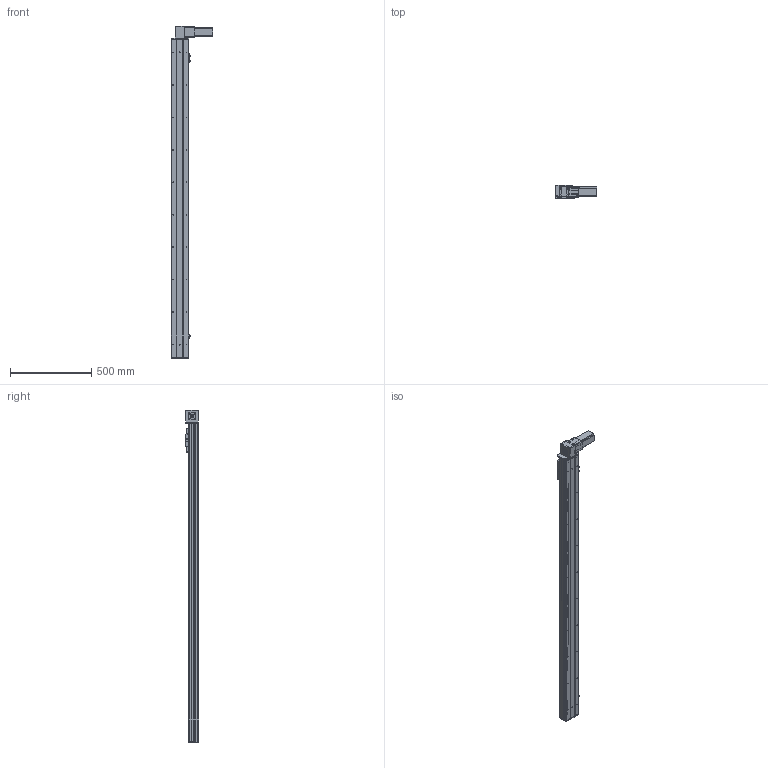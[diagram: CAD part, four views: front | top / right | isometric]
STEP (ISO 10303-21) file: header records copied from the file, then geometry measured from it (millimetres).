
FILE_DESCRIPTION (( 'STEP AP203' ), '1' );
FILE_NAME ('Y10CB-D90-S1700-BD-P400W.STEP', '2020-02-17T02:47:20', ( '微软用户' ), ( '微软中国' ), 'SwSTEP 2.0', 'SolidWorks 2017', '' );
FILE_SCHEMA (( 'CONFIG_CONTROL_DESIGN' ));
Length unit declared in the file: millimetre
Products named in the file (16): Y135C-陔俋离換覜結え-; san松下电机400不带刹车----; Y100-135俋离換覜ん--; 0B-源倛裔啣; Y10B--々湍喘謫眊--666; 0B-埴倛裔啣; 0B-薊粣ん眊; 10CB-詩湍-; Y10CB-D90-S1700-BD-P400W; Y10CB- 掛极耜裔啣-毀---; Y10C---詩湍揤啣; 0CB-雄赽釱---; 10CB9-掛极; 0Cb-俋欶---; 10CB-耜裔; Y10B-々湍喘謫眊楊擘啣--
Assembly tree (19 placements, depth 2):
  Y10CB-D90-S1700-BD-P400W
    0CB-雄赽釱---
    0Cb-俋欶---
    Y10B-々湍喘謫眊楊擘啣--
    san松下电机400不带刹车----
    0B-源倛裔啣
    0B-埴倛裔啣
    10CB-詩湍-
    Y10CB- 掛极耜裔啣-毀---  x2
    Y10C---詩湍揤啣  x2
    10CB9-掛极
    10CB-耜裔
    Y135C-陔俋离換覜結え-
    Y100-135俋离換覜ん--  x3
    Y10B--々湍喘謫眊--666
    0B-薊粣ん眊
Bounding box: 258 x 80.5 x 2046 mm (x, y, z)
Volume: 4357889.7 mm3; surface area: 1983986.1 mm2
Topology: 19 solids, 19 shells, 936 faces, 2502 edges, 1628 vertices
Faces by surface type: cylinder 470, plane 442, cone 24
Entity records: 29069 total; most frequent: CARTESIAN_POINT 5348, DIRECTION 4661, ORIENTED_EDGE 4474, EDGE_CURVE 2237, AXIS2_PLACEMENT_3D 1671, VERTEX_POINT 1454, LINE 1319, VECTOR 1319
